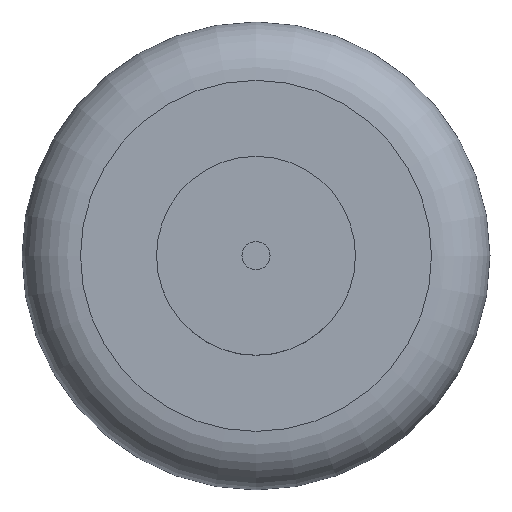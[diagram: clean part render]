
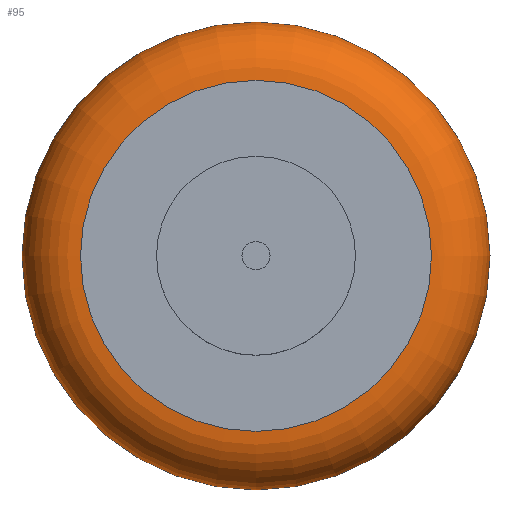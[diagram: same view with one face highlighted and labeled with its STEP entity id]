
A CAD part, top view. The second image highlights one B-rep face of the part: STEP entity #95.
In plain terms, the highlighted toroidal (fillet/blend) face has major radius 75 mm and minor radius 25 mm.
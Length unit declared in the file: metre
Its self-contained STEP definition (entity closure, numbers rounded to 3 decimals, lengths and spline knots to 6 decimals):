
#15=TOROIDAL_SURFACE('',#121,0.075,0.025);
#20=ORIENTED_EDGE('',*,*,#35,.F.);
#21=ORIENTED_EDGE('',*,*,#33,.F.);
#33=EDGE_CURVE('',#41,#41,#49,.T.);
#35=EDGE_CURVE('',#43,#43,#51,.F.);
#41=VERTEX_POINT('',#173);
#43=VERTEX_POINT('',#178);
#49=CIRCLE('',#117,0.075);
#51=CIRCLE('',#120,0.075);
#60=EDGE_LOOP('',(#20));
#61=EDGE_LOOP('',(#21));
#76=FACE_BOUND('',#60,.T.);
#77=FACE_BOUND('',#61,.T.);
#95=ADVANCED_FACE('',(#76,#77),#15,.T.);
#117=AXIS2_PLACEMENT_3D('',#172,#138,#139);
#120=AXIS2_PLACEMENT_3D('',#177,#144,#145);
#121=AXIS2_PLACEMENT_3D('',#179,#146,#147);
#138=DIRECTION('',(0.,0.,1.));
#139=DIRECTION('',(1.,0.,0.));
#144=DIRECTION('',(0.,0.,1.));
#145=DIRECTION('',(1.,0.,0.));
#146=DIRECTION('',(0.,0.,1.));
#147=DIRECTION('',(1.,0.,0.));
#172=CARTESIAN_POINT('',(0.,0.,0.05));
#173=CARTESIAN_POINT('',(0.075,0.,0.05));
#177=CARTESIAN_POINT('',(0.,0.,0.));
#178=CARTESIAN_POINT('',(0.075,0.,0.));
#179=CARTESIAN_POINT('',(0.,0.,0.025));
